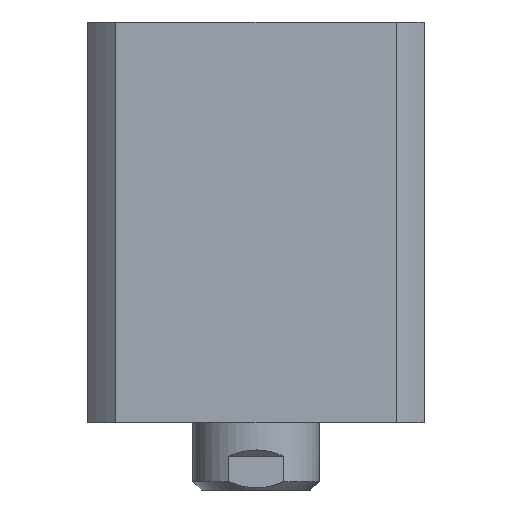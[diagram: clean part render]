
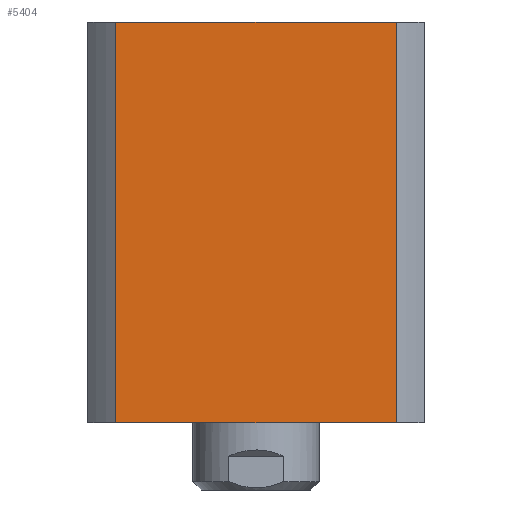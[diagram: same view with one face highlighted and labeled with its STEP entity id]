
A CAD part, left-side view. The second image highlights one B-rep face of the part: STEP entity #5404.
In plain terms, the highlighted planar face has unit normal (-1, 0, 0).
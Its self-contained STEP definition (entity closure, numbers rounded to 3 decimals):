
#802 = EDGE_CURVE ( 'NONE', #12726, #2891, #8370, .T. ) ;
#1788 = CARTESIAN_POINT ( 'NONE',  ( -40., 33.226, 47.5 ) ) ;
#1948 = FACE_OUTER_BOUND ( 'NONE', #11906, .T. ) ;
#2221 = LINE ( 'NONE', #11171, #13601 ) ;
#2670 = EDGE_CURVE ( 'NONE', #12726, #4747, #4263, .T. ) ;
#2891 = VERTEX_POINT ( 'NONE', #5441 ) ;
#3520 = AXIS2_PLACEMENT_3D ( 'NONE', #5735, #10116, #7790 ) ;
#3740 = DIRECTION ( 'NONE',  ( 0., -1., 0. ) ) ;
#4263 = LINE ( 'NONE', #10409, #5607 ) ;
#4731 = CARTESIAN_POINT ( 'NONE',  ( -40., 33.226, -47.5 ) ) ;
#4747 = VERTEX_POINT ( 'NONE', #7907 ) ;
#5404 = ADVANCED_FACE ( 'NONE', ( #1948 ), #5587, .F. ) ;
#5410 = EDGE_CURVE ( 'NONE', #2891, #10688, #13316, .T. ) ;
#5441 = CARTESIAN_POINT ( 'NONE',  ( -40., 33.226, -47.5 ) ) ;
#5464 = ORIENTED_EDGE ( 'NONE', *, *, #2670, .F. ) ;
#5587 = PLANE ( 'NONE',  #3520 ) ;
#5607 = VECTOR ( 'NONE', #11494, 1000. ) ;
#5735 = CARTESIAN_POINT ( 'NONE',  ( -40., 33.226, 47.5 ) ) ;
#6767 = DIRECTION ( 'NONE',  ( 0., 0., -1. ) ) ;
#7719 = VECTOR ( 'NONE', #3740, 1000. ) ;
#7790 = DIRECTION ( 'NONE',  ( 0., 1., 0. ) ) ;
#7907 = CARTESIAN_POINT ( 'NONE',  ( -40., -33.226, 47.5 ) ) ;
#8078 = CARTESIAN_POINT ( 'NONE',  ( -40., -33.226, -47.5 ) ) ;
#8370 = LINE ( 'NONE', #1788, #12610 ) ;
#8549 = ORIENTED_EDGE ( 'NONE', *, *, #802, .T. ) ;
#10116 = DIRECTION ( 'NONE',  ( 1., 0., 0. ) ) ;
#10409 = CARTESIAN_POINT ( 'NONE',  ( -40., 33.226, 47.5 ) ) ;
#10425 = EDGE_CURVE ( 'NONE', #4747, #10688, #2221, .T. ) ;
#10437 = DIRECTION ( 'NONE',  ( 0., 0., -1. ) ) ;
#10688 = VERTEX_POINT ( 'NONE', #8078 ) ;
#10851 = CARTESIAN_POINT ( 'NONE',  ( -40., 33.226, 47.5 ) ) ;
#11171 = CARTESIAN_POINT ( 'NONE',  ( -40., -33.226, 47.5 ) ) ;
#11494 = DIRECTION ( 'NONE',  ( 0., -1., 0. ) ) ;
#11906 = EDGE_LOOP ( 'NONE', ( #12080, #12221, #5464, #8549 ) ) ;
#12080 = ORIENTED_EDGE ( 'NONE', *, *, #5410, .T. ) ;
#12221 = ORIENTED_EDGE ( 'NONE', *, *, #10425, .F. ) ;
#12610 = VECTOR ( 'NONE', #10437, 1000. ) ;
#12726 = VERTEX_POINT ( 'NONE', #10851 ) ;
#13316 = LINE ( 'NONE', #4731, #7719 ) ;
#13601 = VECTOR ( 'NONE', #6767, 1000. ) ;
